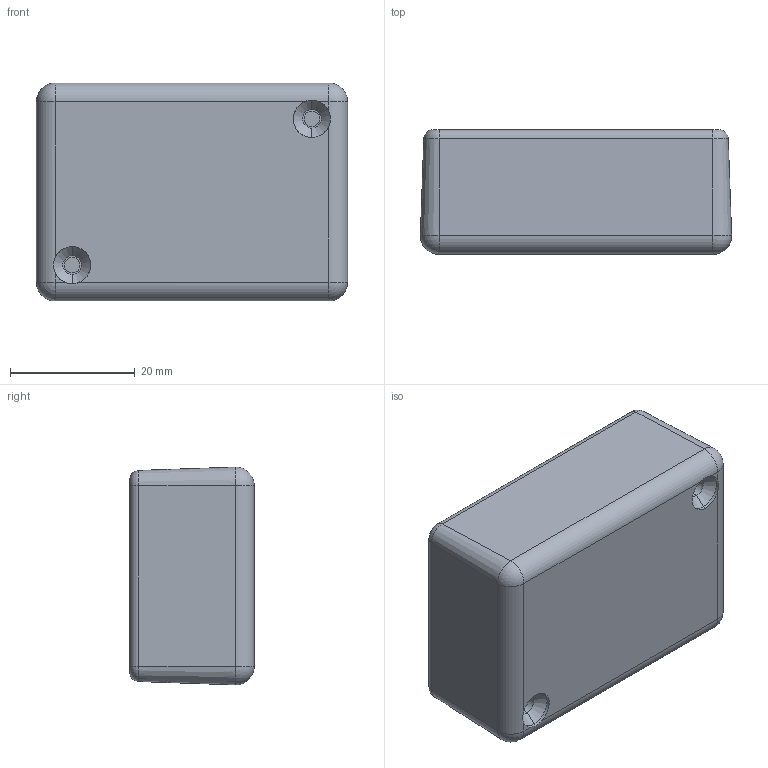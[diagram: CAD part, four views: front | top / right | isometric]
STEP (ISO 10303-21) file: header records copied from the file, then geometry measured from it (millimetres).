
FILE_DESCRIPTION (( 'STEP AP203' ), '1' );
FILE_NAME ('HH-004.STEP', '2016-06-21T05:19:38', ( '' ), ( '' ), 'SwSTEP 2.0', 'SolidWorks 2015', '' );
FILE_SCHEMA (( 'CONFIG_CONTROL_DESIGN' ));
Length unit declared in the file: millimetre
Products named in the file (3): HH-003-P-1-11141; DM-004-P-1-11138; HH-004
Assembly tree (2 placements, depth 2):
  HH-004
    HH-003-P-1-11141
    DM-004-P-1-11138
Bounding box: 50 x 20 x 35 mm (x, y, z)
Volume: 11882.6 mm3; surface area: 13918.3 mm2
Topology: 2 solids, 2 shells, 117 faces, 287 edges, 182 vertices
Faces by surface type: plane 52, cone 32, cylinder 25, sphere 4, torus 4
Entity records: 3772 total; most frequent: DIRECTION 637, CARTESIAN_POINT 625, ORIENTED_EDGE 566, EDGE_CURVE 283, AXIS2_PLACEMENT_3D 238, VERTEX_POINT 182, VECTOR 161, LINE 161
